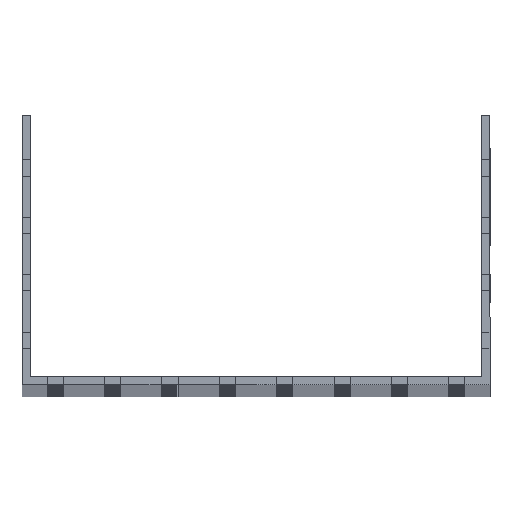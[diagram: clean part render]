
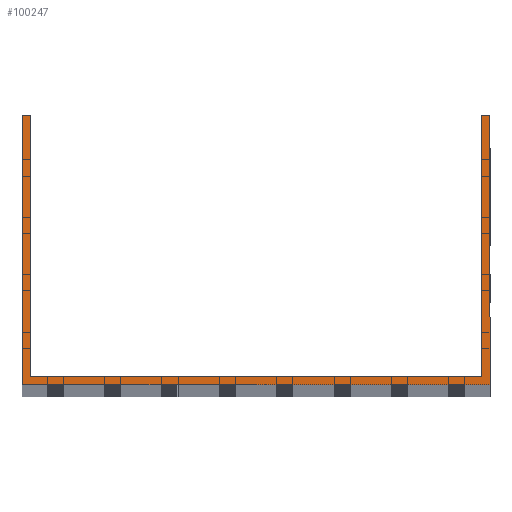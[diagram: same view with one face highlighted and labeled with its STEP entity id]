
A CAD part, top view. The second image highlights one B-rep face of the part: STEP entity #100247.
In plain terms, the highlighted planar face has unit normal (0, 0, 1).
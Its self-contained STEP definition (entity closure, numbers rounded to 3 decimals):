
#3207 = ORIENTED_EDGE ( 'NONE', *, *, #126092, .T. ) ;
#5773 = CARTESIAN_POINT ( 'NONE',  ( -102., 0., 1500. ) ) ;
#7001 = CARTESIAN_POINT ( 'NONE',  ( -102., 117.5, 1500. ) ) ;
#7953 = AXIS2_PLACEMENT_3D ( 'NONE', #105304, #45851, #156856 ) ;
#10369 = EDGE_CURVE ( 'NONE', #110937, #44184, #93197, .T. ) ;
#10952 = FACE_OUTER_BOUND ( 'NONE', #65526, .T. ) ;
#11274 = CARTESIAN_POINT ( 'NONE',  ( -98.5, 117.5, 1500. ) ) ;
#13045 = VERTEX_POINT ( 'NONE', #105450 ) ;
#14669 = LINE ( 'NONE', #112161, #36222 ) ;
#16316 = VERTEX_POINT ( 'NONE', #38829 ) ;
#20253 = DIRECTION ( 'NONE',  ( 0., 1., 0. ) ) ;
#23172 = LINE ( 'NONE', #11274, #100118 ) ;
#30792 = LINE ( 'NONE', #7001, #107263 ) ;
#34874 = EDGE_CURVE ( 'NONE', #13045, #134967, #23172, .T. ) ;
#35074 = ORIENTED_EDGE ( 'NONE', *, *, #127854, .T. ) ;
#36222 = VECTOR ( 'NONE', #97149, 1000. ) ;
#38829 = CARTESIAN_POINT ( 'NONE',  ( -102., 117.5, 1500. ) ) ;
#39819 = DIRECTION ( 'NONE',  ( 0., -1., 0. ) ) ;
#42041 = CARTESIAN_POINT ( 'NONE',  ( 102., 117.5, 1500. ) ) ;
#43275 = CARTESIAN_POINT ( 'NONE',  ( 98.5, 117.5, 1500. ) ) ;
#44184 = VERTEX_POINT ( 'NONE', #51900 ) ;
#45058 = ORIENTED_EDGE ( 'NONE', *, *, #10369, .F. ) ;
#45851 = DIRECTION ( 'NONE',  ( 0., 0., 1. ) ) ;
#50310 = VECTOR ( 'NONE', #20253, 1000. ) ;
#51900 = CARTESIAN_POINT ( 'NONE',  ( 98.5, 117.5, 1500. ) ) ;
#53041 = DIRECTION ( 'NONE',  ( -1., 0., 0. ) ) ;
#56140 = LINE ( 'NONE', #152865, #142492 ) ;
#56202 = CARTESIAN_POINT ( 'NONE',  ( -102., 0., 1500. ) ) ;
#64371 = LINE ( 'NONE', #113535, #123130 ) ;
#65526 = EDGE_LOOP ( 'NONE', ( #150048, #141598, #35074, #116728, #79306, #3207, #45058, #98366 ) ) ;
#67571 = CARTESIAN_POINT ( 'NONE',  ( -98.5, 3.5, 1500. ) ) ;
#79306 = ORIENTED_EDGE ( 'NONE', *, *, #115777, .T. ) ;
#79974 = DIRECTION ( 'NONE',  ( 1., 0., 0. ) ) ;
#81069 = DIRECTION ( 'NONE',  ( 0., -1., 0. ) ) ;
#82247 = DIRECTION ( 'NONE',  ( -1., 0., 0. ) ) ;
#82768 = LINE ( 'NONE', #143834, #154540 ) ;
#85865 = EDGE_CURVE ( 'NONE', #142510, #156523, #142585, .T. ) ;
#92537 = CARTESIAN_POINT ( 'NONE',  ( 102., 0., 1500. ) ) ;
#93197 = LINE ( 'NONE', #43275, #50310 ) ;
#97149 = DIRECTION ( 'NONE',  ( 0., 1., 0. ) ) ;
#98366 = ORIENTED_EDGE ( 'NONE', *, *, #99326, .F. ) ;
#99326 = EDGE_CURVE ( 'NONE', #134967, #110937, #82768, .T. ) ;
#100118 = VECTOR ( 'NONE', #81069, 1000. ) ;
#100247 = ADVANCED_FACE ( 'NONE', ( #10952 ), #154479, .T. ) ;
#105304 = CARTESIAN_POINT ( 'NONE',  ( 0., 0., 1500. ) ) ;
#105450 = CARTESIAN_POINT ( 'NONE',  ( -98.5, 117.5, 1500. ) ) ;
#107263 = VECTOR ( 'NONE', #82247, 1000. ) ;
#110937 = VERTEX_POINT ( 'NONE', #135543 ) ;
#112161 = CARTESIAN_POINT ( 'NONE',  ( 102., 117.5, 1500. ) ) ;
#113535 = CARTESIAN_POINT ( 'NONE',  ( -102., 117.5, 1500. ) ) ;
#113826 = EDGE_CURVE ( 'NONE', #13045, #16316, #56140, .T. ) ;
#115777 = EDGE_CURVE ( 'NONE', #156523, #121276, #14669, .T. ) ;
#116728 = ORIENTED_EDGE ( 'NONE', *, *, #85865, .T. ) ;
#119253 = VECTOR ( 'NONE', #79974, 1000. ) ;
#121276 = VERTEX_POINT ( 'NONE', #42041 ) ;
#123130 = VECTOR ( 'NONE', #39819, 1000. ) ;
#126092 = EDGE_CURVE ( 'NONE', #121276, #44184, #30792, .T. ) ;
#127854 = EDGE_CURVE ( 'NONE', #16316, #142510, #64371, .T. ) ;
#129568 = DIRECTION ( 'NONE',  ( 1., 0., 0. ) ) ;
#134967 = VERTEX_POINT ( 'NONE', #67571 ) ;
#135543 = CARTESIAN_POINT ( 'NONE',  ( 98.5, 3.5, 1500. ) ) ;
#141598 = ORIENTED_EDGE ( 'NONE', *, *, #113826, .T. ) ;
#142492 = VECTOR ( 'NONE', #53041, 1000. ) ;
#142510 = VERTEX_POINT ( 'NONE', #5773 ) ;
#142585 = LINE ( 'NONE', #56202, #119253 ) ;
#143834 = CARTESIAN_POINT ( 'NONE',  ( -102., 3.5, 1500. ) ) ;
#150048 = ORIENTED_EDGE ( 'NONE', *, *, #34874, .F. ) ;
#152865 = CARTESIAN_POINT ( 'NONE',  ( -102., 117.5, 1500. ) ) ;
#154479 = PLANE ( 'NONE',  #7953 ) ;
#154540 = VECTOR ( 'NONE', #129568, 1000. ) ;
#156523 = VERTEX_POINT ( 'NONE', #92537 ) ;
#156856 = DIRECTION ( 'NONE',  ( 1., 0., 0. ) ) ;
